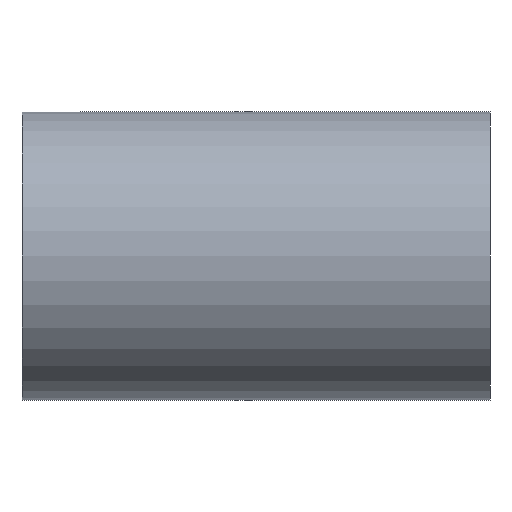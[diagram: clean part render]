
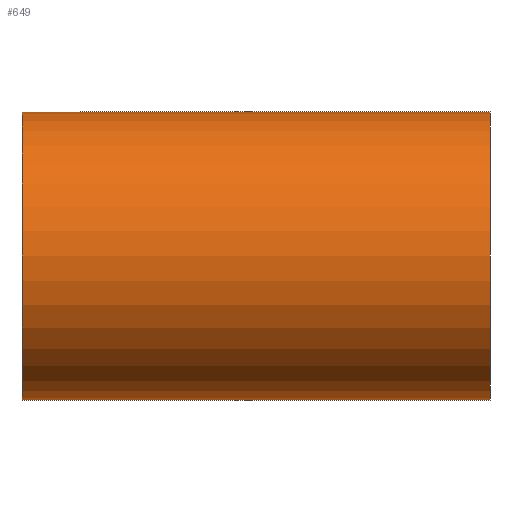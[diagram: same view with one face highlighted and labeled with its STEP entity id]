
A CAD part, front view. The second image highlights one B-rep face of the part: STEP entity #649.
In plain terms, the highlighted cylindrical face has radius 4 mm (diameter 8 mm), a partial arc.
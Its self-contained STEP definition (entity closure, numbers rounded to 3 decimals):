
#11 = CARTESIAN_POINT ( 'NONE',  ( -6.5, 0., 0. ) ) ;
#74 = EDGE_CURVE ( 'NONE', #229, #604, #323, .T. ) ;
#135 = CIRCLE ( 'NONE', #147, 4. ) ;
#147 = AXIS2_PLACEMENT_3D ( 'NONE', #11, #475, #268 ) ;
#170 = ORIENTED_EDGE ( 'NONE', *, *, #74, .F. ) ;
#175 = DIRECTION ( 'NONE',  ( -1., 0., 0. ) ) ;
#194 = DIRECTION ( 'NONE',  ( 0., 0., 1. ) ) ;
#220 = VECTOR ( 'NONE', #175, 1000. ) ;
#229 = VERTEX_POINT ( 'NONE', #232 ) ;
#232 = CARTESIAN_POINT ( 'NONE',  ( 6.5, 0., -4. ) ) ;
#243 = ORIENTED_EDGE ( 'NONE', *, *, #773, .T. ) ;
#265 = DIRECTION ( 'NONE',  ( -1., 0., 0. ) ) ;
#268 = DIRECTION ( 'NONE',  ( 0., 0., 1. ) ) ;
#323 = LINE ( 'NONE', #791, #220 ) ;
#354 = CARTESIAN_POINT ( 'NONE',  ( -6.5, 0., 4. ) ) ;
#371 = VECTOR ( 'NONE', #265, 1000. ) ;
#377 = CYLINDRICAL_SURFACE ( 'NONE', #719, 4. ) ;
#408 = ORIENTED_EDGE ( 'NONE', *, *, #757, .F. ) ;
#416 = DIRECTION ( 'NONE',  ( -1., 0., 0. ) ) ;
#431 = VERTEX_POINT ( 'NONE', #354 ) ;
#467 = LINE ( 'NONE', #480, #371 ) ;
#475 = DIRECTION ( 'NONE',  ( -1., 0., 0. ) ) ;
#480 = CARTESIAN_POINT ( 'NONE',  ( 0., 0., 4. ) ) ;
#481 = CARTESIAN_POINT ( 'NONE',  ( 6.5, 0., 0. ) ) ;
#488 = CARTESIAN_POINT ( 'NONE',  ( -6.5, 0., -4. ) ) ;
#490 = CIRCLE ( 'NONE', #519, 4. ) ;
#513 = CARTESIAN_POINT ( 'NONE',  ( 0., 0., 0. ) ) ;
#519 = AXIS2_PLACEMENT_3D ( 'NONE', #481, #416, #743 ) ;
#547 = EDGE_CURVE ( 'NONE', #229, #836, #490, .T. ) ;
#586 = DIRECTION ( 'NONE',  ( -1., 0., 0. ) ) ;
#604 = VERTEX_POINT ( 'NONE', #488 ) ;
#649 = ADVANCED_FACE ( 'NONE', ( #695 ), #377, .T. ) ;
#695 = FACE_OUTER_BOUND ( 'NONE', #698, .T. ) ;
#698 = EDGE_LOOP ( 'NONE', ( #170, #771, #243, #408 ) ) ;
#719 = AXIS2_PLACEMENT_3D ( 'NONE', #513, #586, #194 ) ;
#743 = DIRECTION ( 'NONE',  ( 0., 0., 1. ) ) ;
#757 = EDGE_CURVE ( 'NONE', #604, #431, #135, .T. ) ;
#764 = CARTESIAN_POINT ( 'NONE',  ( 6.5, 0., 4. ) ) ;
#771 = ORIENTED_EDGE ( 'NONE', *, *, #547, .T. ) ;
#773 = EDGE_CURVE ( 'NONE', #836, #431, #467, .T. ) ;
#791 = CARTESIAN_POINT ( 'NONE',  ( 0., 0., -4. ) ) ;
#836 = VERTEX_POINT ( 'NONE', #764 ) ;
